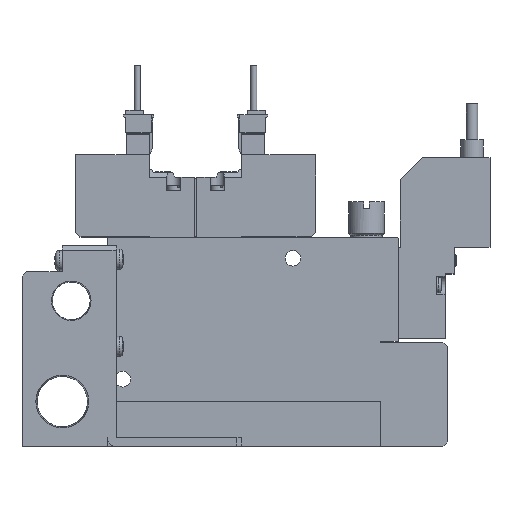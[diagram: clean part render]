
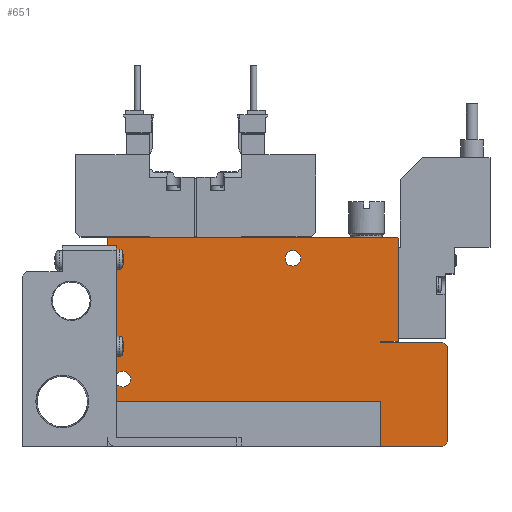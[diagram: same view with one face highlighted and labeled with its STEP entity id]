
A CAD part, top view. The second image highlights one B-rep face of the part: STEP entity #651.
In plain terms, the highlighted planar face has unit normal (0, 0, 1).
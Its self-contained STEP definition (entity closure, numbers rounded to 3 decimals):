
#651=ADVANCED_FACE('',(#1505,#1506,#1507),#1508,.F.);
#1505=FACE_OUTER_BOUND('',#2576,.T.);
#1506=FACE_BOUND('',#2577,.T.);
#1507=FACE_BOUND('',#2578,.T.);
#1508=PLANE('',#2579);
#2576=EDGE_LOOP('',(#5571,#5572,#5573,#5574,#5575,#5576,#5577,#5578,#5579,#5580,#5581,#5582,#5583,#5584));
#2577=EDGE_LOOP('',(#5585));
#2578=EDGE_LOOP('',(#5586));
#2579=AXIS2_PLACEMENT_3D('',#5587,#5588,#5589);
#5571=ORIENTED_EDGE('',*,*,#7544,.T.);
#5572=ORIENTED_EDGE('',*,*,#7500,.F.);
#5573=ORIENTED_EDGE('',*,*,#7490,.F.);
#5574=ORIENTED_EDGE('',*,*,#7545,.T.);
#5575=ORIENTED_EDGE('',*,*,#7546,.T.);
#5576=ORIENTED_EDGE('',*,*,#7547,.T.);
#5577=ORIENTED_EDGE('',*,*,#7548,.T.);
#5578=ORIENTED_EDGE('',*,*,#7549,.T.);
#5579=ORIENTED_EDGE('',*,*,#7550,.T.);
#5580=ORIENTED_EDGE('',*,*,#7551,.T.);
#5581=ORIENTED_EDGE('',*,*,#7552,.T.);
#5582=ORIENTED_EDGE('',*,*,#7553,.T.);
#5583=ORIENTED_EDGE('',*,*,#7554,.T.);
#5584=ORIENTED_EDGE('',*,*,#7555,.T.);
#5585=ORIENTED_EDGE('',*,*,#7518,.F.);
#5586=ORIENTED_EDGE('',*,*,#7516,.F.);
#5587=CARTESIAN_POINT('',(0.0,0.0,5.0));
#5588=DIRECTION('',(0.0,0.0,-1.0));
#5589=DIRECTION('',(0.0,-1.0,0.0));
#7490=EDGE_CURVE('',#9201,#9203,#9204,.T.);
#7500=EDGE_CURVE('',#9203,#9220,#9221,.T.);
#7516=EDGE_CURVE('',#9248,#9248,#9249,.T.);
#7518=EDGE_CURVE('',#9252,#9252,#9253,.T.);
#7544=EDGE_CURVE('',#9300,#9220,#9301,.T.);
#7545=EDGE_CURVE('',#9201,#9302,#9303,.T.);
#7546=EDGE_CURVE('',#9302,#9304,#9305,.T.);
#7547=EDGE_CURVE('',#9304,#9306,#9307,.T.);
#7548=EDGE_CURVE('',#9306,#9308,#9309,.T.);
#7549=EDGE_CURVE('',#9308,#9310,#9311,.T.);
#7550=EDGE_CURVE('',#9310,#9312,#9313,.T.);
#7551=EDGE_CURVE('',#9312,#9314,#9315,.T.);
#7552=EDGE_CURVE('',#9314,#9316,#9317,.T.);
#7553=EDGE_CURVE('',#9316,#9318,#9319,.T.);
#7554=EDGE_CURVE('',#9318,#9320,#9321,.T.);
#7555=EDGE_CURVE('',#9320,#9300,#9322,.T.);
#9201=VERTEX_POINT('',#12031);
#9203=VERTEX_POINT('',#12034);
#9204=LINE('',#12035,#12036);
#9220=VERTEX_POINT('',#12061);
#9221=LINE('',#12062,#12063);
#9248=VERTEX_POINT('',#12100);
#9249=CIRCLE('',#12101,1.75);
#9252=VERTEX_POINT('',#12104);
#9253=CIRCLE('',#12105,1.75);
#9300=VERTEX_POINT('',#12168);
#9301=LINE('',#12169,#12170);
#9302=VERTEX_POINT('',#12171);
#9303=LINE('',#12172,#12173);
#9304=VERTEX_POINT('',#12174);
#9305=LINE('',#12175,#12176);
#9306=VERTEX_POINT('',#12177);
#9307=LINE('',#12178,#12179);
#9308=VERTEX_POINT('',#12180);
#9309=LINE('',#12181,#12182);
#9310=VERTEX_POINT('',#12183);
#9311=LINE('',#12184,#12185);
#9312=VERTEX_POINT('',#12186);
#9313=LINE('',#12187,#12188);
#9314=VERTEX_POINT('',#12189);
#9315=LINE('',#12190,#12191);
#9316=VERTEX_POINT('',#12192);
#9317=LINE('',#12193,#12194);
#9318=VERTEX_POINT('',#12195);
#9319=LINE('',#12196,#12197);
#9320=VERTEX_POINT('',#12198);
#9321=LINE('',#12199,#12200);
#9322=LINE('',#12201,#12202);
#12031=CARTESIAN_POINT('',(61.1,0.0,5.0));
#12034=CARTESIAN_POINT('',(61.1,10.1,5.0));
#12035=CARTESIAN_POINT('',(61.1,0.0,5.0));
#12036=VECTOR('',#14305,1.0);
#12061=CARTESIAN_POINT('',(0.0,10.1,5.0));
#12062=CARTESIAN_POINT('',(61.1,10.1,5.0));
#12063=VECTOR('',#14315,1.0);
#12100=CARTESIAN_POINT('',(43.25,42.0,5.0));
#12101=AXIS2_PLACEMENT_3D('',#14341,#14342,#14343);
#12104=CARTESIAN_POINT('',(5.25,15.0,5.0));
#12105=AXIS2_PLACEMENT_3D('',#14347,#14348,#14349);
#12168=CARTESIAN_POINT('',(0.0,46.4,5.0));
#12169=CARTESIAN_POINT('',(0.0,46.4,5.0));
#12170=VECTOR('',#14393,1.0);
#12171=CARTESIAN_POINT('',(75.0,0.0,5.0));
#12172=CARTESIAN_POINT('',(0.0,0.0,5.0));
#12173=VECTOR('',#14394,1.0);
#12174=CARTESIAN_POINT('',(76.0,1.0,5.0));
#12175=CARTESIAN_POINT('',(75.0,0.0,5.0));
#12176=VECTOR('',#14395,1.0);
#12177=CARTESIAN_POINT('',(76.0,22.25,5.0));
#12178=CARTESIAN_POINT('',(76.0,1.0,5.0));
#12179=VECTOR('',#14396,1.0);
#12180=CARTESIAN_POINT('',(75.0,23.25,5.0));
#12181=CARTESIAN_POINT('',(76.0,22.25,5.0));
#12182=VECTOR('',#14397,1.0);
#12183=CARTESIAN_POINT('',(61.0,23.25,5.0));
#12184=CARTESIAN_POINT('',(75.0,23.25,5.0));
#12185=VECTOR('',#14398,1.0);
#12186=CARTESIAN_POINT('',(61.0,23.5,5.0));
#12187=CARTESIAN_POINT('',(61.0,23.25,5.0));
#12188=VECTOR('',#14399,1.0);
#12189=CARTESIAN_POINT('',(65.0,23.5,5.0));
#12190=CARTESIAN_POINT('',(61.0,23.5,5.0));
#12191=VECTOR('',#14400,1.0);
#12192=CARTESIAN_POINT('',(65.0,46.4,5.0));
#12193=CARTESIAN_POINT('',(65.0,23.5,5.0));
#12194=VECTOR('',#14401,1.0);
#12195=CARTESIAN_POINT('',(64.8,46.6,5.0));
#12196=CARTESIAN_POINT('',(65.0,46.4,5.0));
#12197=VECTOR('',#14402,1.0);
#12198=CARTESIAN_POINT('',(0.2,46.6,5.0));
#12199=CARTESIAN_POINT('',(64.8,46.6,5.0));
#12200=VECTOR('',#14403,1.0);
#12201=CARTESIAN_POINT('',(0.2,46.6,5.0));
#12202=VECTOR('',#14404,1.0);
#14305=DIRECTION('',(0.0,1.0,0.0));
#14315=DIRECTION('',(-1.0,0.0,0.0));
#14341=CARTESIAN_POINT('',(41.5,42.0,5.0));
#14342=DIRECTION('',(0.0,0.0,1.0));
#14343=DIRECTION('',(1.0,0.0,0.0));
#14347=CARTESIAN_POINT('',(3.5,15.0,5.0));
#14348=DIRECTION('',(0.0,0.0,1.0));
#14349=DIRECTION('',(1.0,0.0,0.0));
#14393=DIRECTION('',(0.0,-1.0,0.0));
#14394=DIRECTION('',(1.0,0.0,0.0));
#14395=DIRECTION('',(0.707,0.707,0.0));
#14396=DIRECTION('',(0.0,1.0,0.0));
#14397=DIRECTION('',(-0.707,0.707,0.0));
#14398=DIRECTION('',(-1.0,0.0,0.0));
#14399=DIRECTION('',(0.0,1.0,0.0));
#14400=DIRECTION('',(1.0,0.,0.0));
#14401=DIRECTION('',(0.0,1.0,0.0));
#14402=DIRECTION('',(-0.707,0.707,0.0));
#14403=DIRECTION('',(-1.0,0.0,0.0));
#14404=DIRECTION('',(-0.707,-0.707,0.0));
